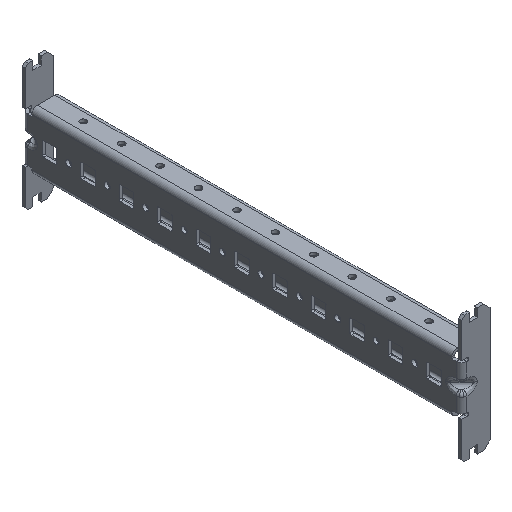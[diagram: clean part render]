
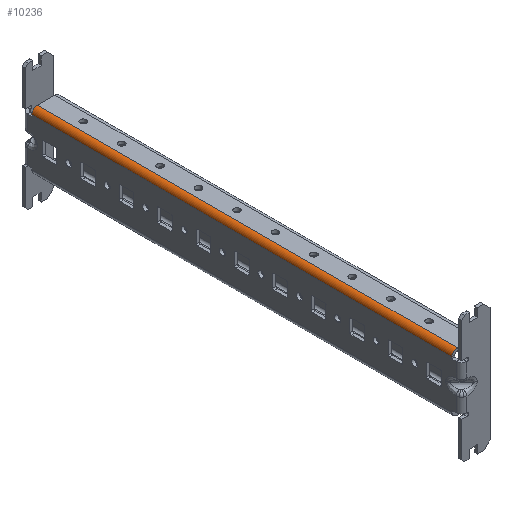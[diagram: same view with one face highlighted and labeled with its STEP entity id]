
A CAD part, isometric view. The second image highlights one B-rep face of the part: STEP entity #10236.
In plain terms, the highlighted cylindrical face has radius 3.5 mm (diameter 7 mm), a partial arc.
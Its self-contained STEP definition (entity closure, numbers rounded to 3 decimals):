
#995 = DIRECTION ( 'NONE',  ( 0., -1., 0. ) ) ;
#1013 = CARTESIAN_POINT ( 'NONE',  ( 3.5, 139.5, 15.5 ) ) ;
#1016 = DIRECTION ( 'NONE',  ( 0., 0., -1. ) ) ;
#2260 = ORIENTED_EDGE ( 'NONE', *, *, #7709, .F. ) ;
#2319 = ORIENTED_EDGE ( 'NONE', *, *, #7218, .T. ) ;
#2370 = ORIENTED_EDGE ( 'NONE', *, *, #7117, .F. ) ;
#2717 = ORIENTED_EDGE ( 'NONE', *, *, #7121, .T. ) ;
#3912 = VERTEX_POINT ( 'NONE', #4116 ) ;
#3981 = VERTEX_POINT ( 'NONE', #4125 ) ;
#4116 = CARTESIAN_POINT ( 'NONE',  ( 3.5, -136.625, 19. ) ) ;
#4125 = CARTESIAN_POINT ( 'NONE',  ( 3.5, 136.625, 19. ) ) ;
#4499 = LINE ( 'NONE', #4529, #4949 ) ;
#4529 = CARTESIAN_POINT ( 'NONE',  ( 0., 139.5, 15.5 ) ) ;
#4592 = DIRECTION ( 'NONE',  ( 0., -1., 0. ) ) ;
#4949 = VECTOR ( 'NONE', #4592, 1000. ) ;
#5042 = AXIS2_PLACEMENT_3D ( 'NONE', #8680, #8585, #9355 ) ;
#5153 = VECTOR ( 'NONE', #6709, 1000. ) ;
#5154 = AXIS2_PLACEMENT_3D ( 'NONE', #6752, #6746, #6720 ) ;
#6250 = FACE_OUTER_BOUND ( 'NONE', #7929, .T. ) ;
#6251 = AXIS2_PLACEMENT_3D ( 'NONE', #1013, #995, #1016 ) ;
#6253 = CYLINDRICAL_SURFACE ( 'NONE', #6251, 3.5 ) ;
#6559 = LINE ( 'NONE', #6748, #5153 ) ;
#6588 = CARTESIAN_POINT ( 'NONE',  ( 0., -136.625, 15.5 ) ) ;
#6648 = CARTESIAN_POINT ( 'NONE',  ( 0., 136.625, 15.5 ) ) ;
#6709 = DIRECTION ( 'NONE',  ( 0., -1., 0. ) ) ;
#6720 = DIRECTION ( 'NONE',  ( 0., 0., -1. ) ) ;
#6746 = DIRECTION ( 'NONE',  ( 0., -1., 0. ) ) ;
#6748 = CARTESIAN_POINT ( 'NONE',  ( 3.5, 139.5, 19. ) ) ;
#6752 = CARTESIAN_POINT ( 'NONE',  ( 3.5, 136.625, 15.5 ) ) ;
#6858 = VERTEX_POINT ( 'NONE', #6648 ) ;
#6900 = VERTEX_POINT ( 'NONE', #6588 ) ;
#7117 = EDGE_CURVE ( 'NONE', #3981, #3912, #6559, .T. ) ;
#7121 = EDGE_CURVE ( 'NONE', #3981, #6858, #7587, .T. ) ;
#7218 = EDGE_CURVE ( 'NONE', #6858, #6900, #4499, .T. ) ;
#7469 = CIRCLE ( 'NONE', #5042, 3.5 ) ;
#7587 = CIRCLE ( 'NONE', #5154, 3.5 ) ;
#7709 = EDGE_CURVE ( 'NONE', #3912, #6900, #7469, .T. ) ;
#7929 = EDGE_LOOP ( 'NONE', ( #2370, #2717, #2319, #2260 ) ) ;
#8585 = DIRECTION ( 'NONE',  ( 0., -1., 0. ) ) ;
#8680 = CARTESIAN_POINT ( 'NONE',  ( 3.5, -136.625, 15.5 ) ) ;
#9355 = DIRECTION ( 'NONE',  ( 0., 0., -1. ) ) ;
#10236 = ADVANCED_FACE ( 'NONE', ( #6250 ), #6253, .T. ) ;
